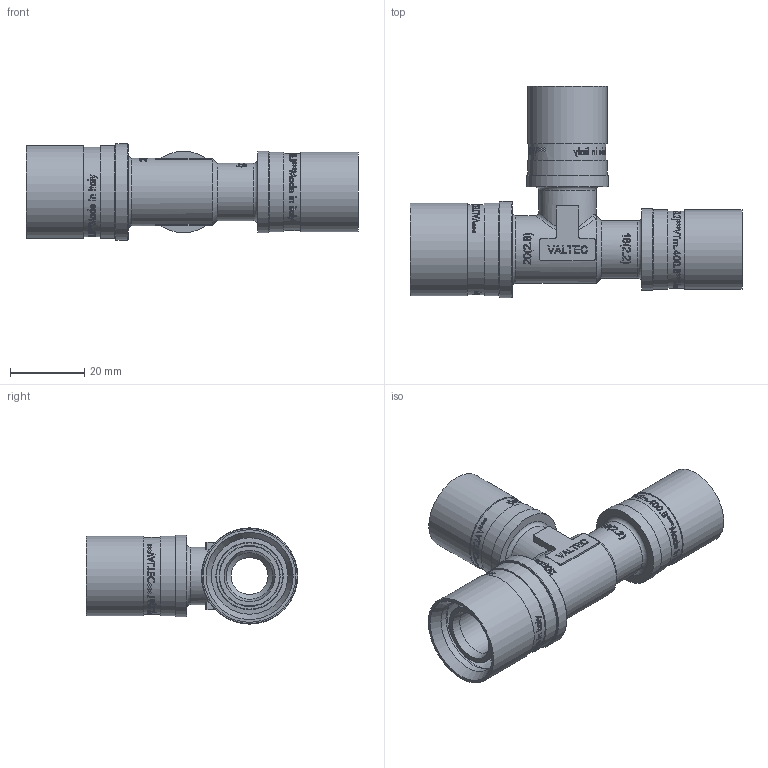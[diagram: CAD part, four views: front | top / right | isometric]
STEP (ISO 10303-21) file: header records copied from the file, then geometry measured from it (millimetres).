
FILE_DESCRIPTION(/* description */ (''),/* implementation_level */ '2;1');
FILE_NAME(/* name */ 'F:\Артём\00000\Работа удаленка\Аксеальные фитинги\VTm.431.BG.201616.stp',/* time_stamp */ '2021-01-26T12:05:24+03:00',/* author */ ('almis'),/* organization */ (''),/* preprocessor_version */ 'ST-DEVELOPER v18',/* originating_system */ 'Autodesk Inventor 2020',/* authorisation */ '');
FILE_SCHEMA (('AUTOMOTIVE_DESIGN { 1 0 10303 214 3 1 1 }'));
Length unit declared in the file: millimetre
Products named in the file (1): VTm.403.BG.001616
Bounding box: 89.66 x 57.1 x 26 mm (x, y, z)
Volume: 21698.2 mm3; surface area: 20761 mm2
Topology: 1 solids, 1 shells, 2341 faces, 6368 edges, 4280 vertices
Faces by surface type: bspline 1197, plane 835, cylinder 261, torus 25, cone 23
Full cylindrical faces by diameter (mm): 10 x2, 12.6 x1, 12.8 x10, 13.4 x8, 15 x2, 15.5 x2, 15.7 x5, 16.5 x4, 16.9 x4, 18.2 x1, 18.3 x1, 20.65 x2, 20.8 x1, 20.801 x1, 21.4 x2, 21.401 x2, 22 x2, 24.3 x1, 25 x2, 26 x1
Entity records: 96151 total; most frequent: CARTESIAN_POINT 44119, ORIENTED_EDGE 12736, DIRECTION 7264, EDGE_CURVE 6368, VERTEX_POINT 4280, LINE 2930, VECTOR 2930, EDGE_LOOP 2596
